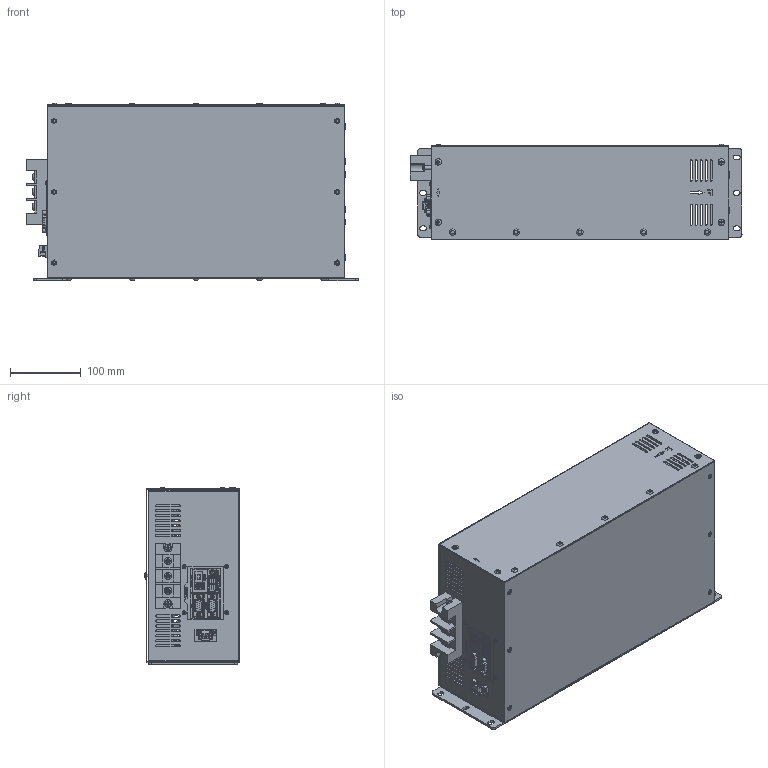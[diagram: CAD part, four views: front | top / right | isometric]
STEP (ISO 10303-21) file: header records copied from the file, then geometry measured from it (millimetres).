
FILE_DESCRIPTION(/* description */ ('','CAx-IF Rec.Pracs.---Representation and Presentation of Product Manufacturing Information (PMI)---4.0---2014-10-13'),/* implementation_level */ '2;1');
FILE_NAME(/* name */ 'H:\04_배터리_전기종\고부하용 배터리 케이스_3D\[NEW] VX3COM_V 고객용\VX3COM_V_2023.03.22_Shrinkwrap_1.stp',/* time_stamp */ '2023-03-22T17:25:09+09:00',/* author */ ('jjang'),/* organization */ (''),/* preprocessor_version */ 'ST-DEVELOPER v18.1',/* originating_system */ 'Autodesk Inventor 2021',/* authorisation */ '');
FILE_SCHEMA (('AP242_MANAGED_MODEL_BASED_3D_ENGINEERING_MIM_LF { 1 0 10303 442 1 1 4 }'));
Products named in the file (1): VX3COM_V_2023.03.22_Shrinkwrap_1
Bounding box: 468 x 134.59 x 250.54 mm (x, y, z)
Volume: 693543 mm3; surface area: 880217 mm2
Topology: 7 solids, 7 shells, 4757 faces, 14118 edges, 9757 vertices
Faces by surface type: plane 2651, cylinder 1221, bspline 676, torus 129, cone 53, sphere 27
Full cylindrical faces by diameter (mm): 0.609 x1, 0.61 x27, 0.635 x9, 0.9 x6, 1.397 x9, 2.286 x9, 2.8 x8, 2.957 x4, 3 x2, 3.048 x4, 3.2 x4, 3.6 x10, 3.783 x2, 3.8 x10, 3.9 x2, 4 x23, 4.3 x12, 4.5 x6, 5 x17, 5.3 x20, 5.4 x2, 5.429 x2, 5.6 x4, 6 x2, 6.082 x1, 7.5 x4, 8 x1, 8.4 x12, 9 x6, 9.2 x2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
Entity records: 191402 total; most frequent: CARTESIAN_POINT 61816, ORIENTED_EDGE 28198, DIRECTION 23494, EDGE_CURVE 14099, VERTEX_POINT 9757, LINE 7980, VECTOR 7980, AXIS2_PLACEMENT_3D 7757
